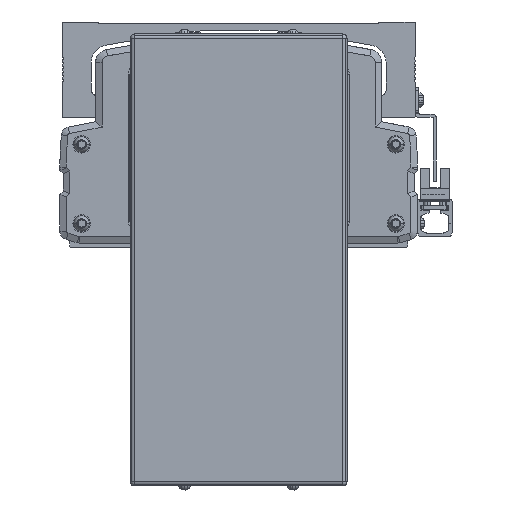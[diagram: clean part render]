
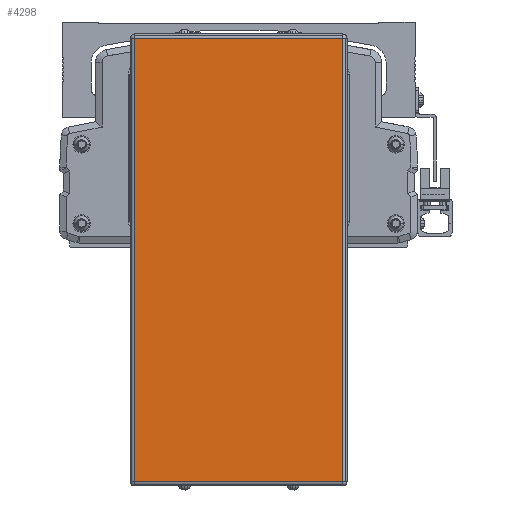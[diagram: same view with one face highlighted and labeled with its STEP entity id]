
A CAD part, front view. The second image highlights one B-rep face of the part: STEP entity #4298.
In plain terms, the highlighted planar face has unit normal (0, -1, 0).
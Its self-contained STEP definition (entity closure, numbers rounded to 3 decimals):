
#4298=ADVANCED_FACE('',(#10488),#10489,.T.);
#10488=FACE_OUTER_BOUND('',#19306,.T.);
#10489=PLANE('',#19307);
#19306=EDGE_LOOP('',(#33440,#33441,#33442,#33443));
#19307=AXIS2_PLACEMENT_3D('',#33444,#33445,#33446);
#33440=ORIENTED_EDGE('',*,*,#55870,.F.);
#33441=ORIENTED_EDGE('',*,*,#53214,.F.);
#33442=ORIENTED_EDGE('',*,*,#54705,.F.);
#33443=ORIENTED_EDGE('',*,*,#55871,.F.);
#33444=CARTESIAN_POINT('',(-600.,-72.778,-57.8));
#33445=DIRECTION('',(0.,-1.0,0.));
#33446=DIRECTION('',(0.,0.,-1.0));
#53214=EDGE_CURVE('',#63537,#63539,#63540,.T.);
#54705=EDGE_CURVE('',#66126,#63537,#66128,.T.);
#55870=EDGE_CURVE('',#63539,#62397,#68046,.T.);
#55871=EDGE_CURVE('',#62397,#66126,#68047,.T.);
#62397=VERTEX_POINT('',#76729);
#63537=VERTEX_POINT('',#78307);
#63539=VERTEX_POINT('',#78309);
#63540=LINE('',#78310,#78311);
#66126=VERTEX_POINT('',#82184);
#66128=LINE('',#82186,#82187);
#68046=LINE('',#84908,#84909);
#68047=LINE('',#84910,#84911);
#76729=CARTESIAN_POINT('',(-552.,-72.778,44.5));
#78307=CARTESIAN_POINT('',(-648.,-72.778,-160.1));
#78309=CARTESIAN_POINT('',(-648.,-72.778,44.5));
#78310=CARTESIAN_POINT('',(-648.,-72.778,-57.8));
#78311=VECTOR('',#98293,10.0);
#82184=CARTESIAN_POINT('',(-552.,-72.778,-160.1));
#82186=CARTESIAN_POINT('',(-600.,-72.778,-160.1));
#82187=VECTOR('',#100169,10.0);
#84908=CARTESIAN_POINT('',(-600.,-72.778,44.5));
#84909=VECTOR('',#101723,10.0);
#84910=CARTESIAN_POINT('',(-552.,-72.778,-57.8));
#84911=VECTOR('',#101724,10.0);
#98293=DIRECTION('',(0.,0.,1.0));
#100169=DIRECTION('',(-1.0,0.,0.));
#101723=DIRECTION('',(1.0,0.,0.));
#101724=DIRECTION('',(0.,0.,-1.0));
